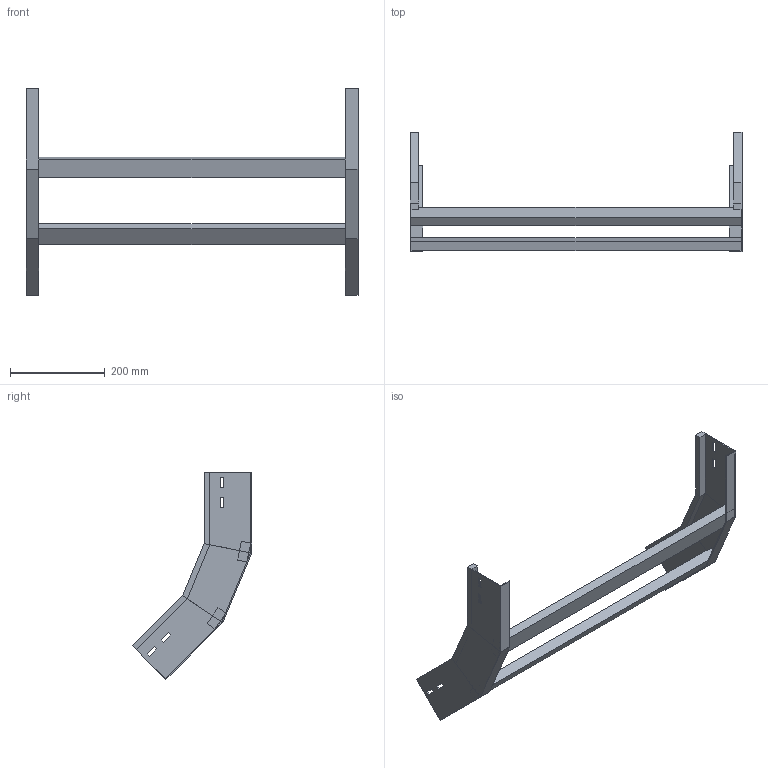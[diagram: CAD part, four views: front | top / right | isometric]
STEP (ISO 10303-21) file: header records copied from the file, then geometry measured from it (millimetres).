
FILE_DESCRIPTION (( 'STEP AP214' ), '1' );
FILE_NAME ('A2X31B3D700XX.step', '2025-03-20T10:04:08', ( '' ), ( '' ), 'SwSTEP 2.0', 'SolidWorks 2023', '' );
FILE_SCHEMA (( 'AUTOMOTIVE_DESIGN' ));
Length unit declared in the file: millimetre
Products named in the file (3): LONGH.SALITA_45°_H100_R300; TRAVERSINO_700; A2X31B3D700XX
Assembly tree (4 placements, depth 2):
  A2X31B3D700XX
    LONGH.SALITA_45°_H100_R300  x2
    TRAVERSINO_700  x2
Bounding box: 700 x 251.29 x 435.96 mm (x, y, z)
Volume: 1520310.5 mm3; surface area: 435491 mm2
Topology: 4 solids, 4 shells, 96 faces, 232 edges, 144 vertices
Faces by surface type: plane 96
Entity records: 1472 total; most frequent: CARTESIAN_POINT 243, ORIENTED_EDGE 232, DIRECTION 226, LINE 116, VECTOR 116, EDGE_CURVE 116, VERTEX_POINT 72, EDGE_LOOP 56
